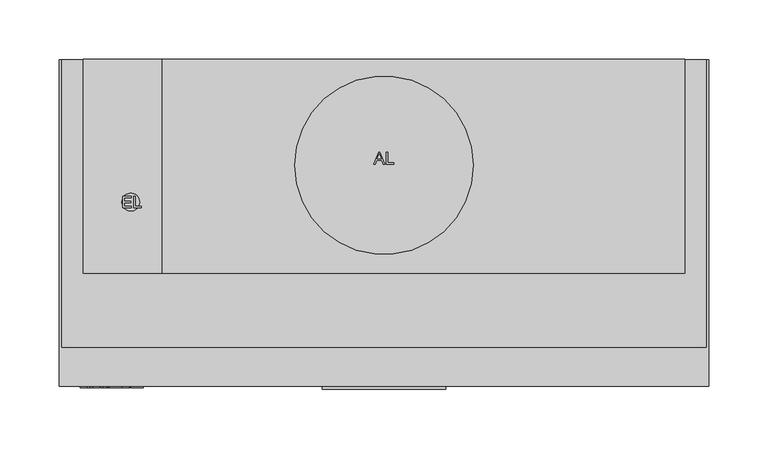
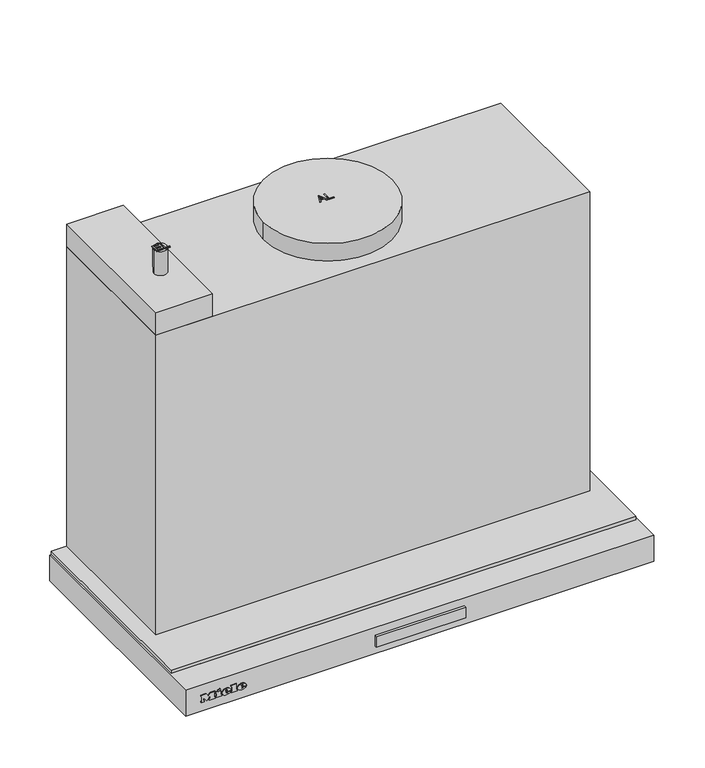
"""IFC4 building model written with IfcOpenShell, lengths in millimetres: proxy geometry, 11862880_CH_DAS2520_EDST : 28S2520S_CH_11862880_DAS2520_EDST."""

from ifc_helpers import new_model, si_unit, point, frame, frame_2d, origin, origin_with_axes, place, context, project, spatial, polyline, circle_curve, ellipse_curve, trimmed, segment, composite_curve, outline, extrude, faceted_brep, source, transform, mapped, element, save
from ifc_brep_helpers import plane_surface, cylinder_surface, revolved_surface, extruded_surface, advanced_brep


def specialty_equipment_39baf08e(model_context):
    return source(origin(), model_context, "Body", "SolidModel", [
        extrude(outline(polyline([(52.0, -275.0), (52.0, -277.3978707), (-52.0, -277.3978707), (-52.0, -275.0), (52.0, -275.0)])), frame((0.0, 0.0, -23.0389651), z_axis=(0.0, 0.0, 1.0), x_axis=(1.0, 0.0, 0.0)), (0.0, 0.0, 1.0), 13.3389155),
        advanced_brep(
        [(-208.4590019, -276.0, -18.7681017), (-208.4590019, -276.0, -17.8894017), (-202.6387019, -276.0, -17.8894017), (-212.7655019, -276.0, -17.8894017), (-210.3730019, -276.0, -20.8300017), (-202.7866019, -276.0, -18.7681017), (-205.4140019, -276.0, -18.7681017), (-207.4846019, -276.0, -19.7425017), (-208.4590019, -276.0, -16.7758017), (-208.4590019, -276.0, -15.8275017), (-206.9713019, -276.0, -15.8275017), (-206.9713019, -276.0, -16.7758017), (-208.4590019, -275.0, -18.7681017), (-207.4846019, -275.0, -19.7425017), (-205.4140019, -275.0, -18.7681017), (-202.7866019, -275.0, -18.7681017), (-210.3730019, -275.0, -20.8300017), (-212.7655019, -275.0, -17.8894017), (-202.6387019, -275.0, -17.8894017), (-208.4590019, -275.0, -17.8894017), (-208.4590019, -275.0, -16.7758017), (-206.9713019, -275.0, -16.7758017), (-206.9713019, -275.0, -15.8275017), (-208.4590019, -275.0, -15.8275017)],
        [
            (0, 1),
            (1, 2),
            (2, 3, ellipse_curve(frame((-207.7021019, -276.0, -17.8894017), z_axis=(0.0, -1.0, 0.0), x_axis=(-1.0, 0.0, 0.0)), 5.0634, 4.1847)),
            (3, 4, circle_curve(frame((-209.3985544, -276.0, -17.5936017), z_axis=(0.0, -1.0, 0.0), x_axis=(0.0, 0.0, -1.0)), 3.3799161)),
            (4, 5, circle_curve(frame((-207.8034638, -276.0, -15.2968017), z_axis=(0.0, -1.0, 0.0), x_axis=(0.0, 0.0, -1.0)), 6.1007236)),
            (5, 6),
            (6, 7, circle_curve(frame((-207.0593254, -276.0, -17.9590017), z_axis=(0.0, 1.0, 0.0), x_axis=(0.0, 0.0, -1.0)), 1.8335027)),
            (7, 0, circle_curve(frame((-207.4846019, -276.0, -18.7681017), z_axis=(0.0, 1.0, 0.0), x_axis=(0.0, 0.0, -1.0)), 0.9744)),
            (8, 9),
            (9, 10, circle_curve(frame((-207.7151519, -276.0, -15.8275017), z_axis=(0.0, 1.0, 0.0), x_axis=(0.0, 0.0, -1.0)), 0.74385)),
            (10, 11),
            (11, 8),
            (12, 13, circle_curve(frame((-207.4846019, -275.0, -18.7681017), z_axis=(0.0, -1.0, 0.0), x_axis=(0.0, 0.0, -1.0)), 0.9744)),
            (13, 14, circle_curve(frame((-207.0593254, -275.0, -17.9590017), z_axis=(0.0, -1.0, 0.0), x_axis=(0.0, 0.0, -1.0)), 1.8335027)),
            (14, 15),
            (15, 16, circle_curve(frame((-207.8034638, -275.0, -15.2968017), z_axis=(0.0, 1.0, 0.0), x_axis=(0.0, 0.0, -1.0)), 6.1007236)),
            (16, 17, circle_curve(frame((-209.3985544, -275.0, -17.5936017), z_axis=(0.0, 1.0, 0.0), x_axis=(0.0, 0.0, -1.0)), 3.3799161)),
            (17, 18, ellipse_curve(frame((-207.7021019, -275.0, -17.8894017), z_axis=(0.0, 1.0, 0.0), x_axis=(-1.0, 0.0, 0.0)), 5.0634, 4.1847)),
            (18, 19),
            (19, 12),
            (20, 21),
            (21, 22),
            (22, 23, circle_curve(frame((-207.7151519, -275.0, -15.8275017), z_axis=(0.0, -1.0, 0.0), x_axis=(0.0, 0.0, -1.0)), 0.74385)),
            (23, 20),
            (0, 12),
            (19, 1),
            (18, 2),
            (5, 15),
            (14, 6),
            (17, 3),
            (13, 7),
            (16, 4),
            (8, 20),
            (23, 9),
            (22, 10),
            (21, 11),
        ],
        [
            plane_surface(frame((-208.4590019, -276.0, -17.8894017), z_axis=(0.0, -1.0, 0.0), x_axis=(0.0, 0.0, 1.0))),
            plane_surface(frame((-208.4590019, -275.0, -17.8894017), z_axis=(0.0, 1.0, 0.0), x_axis=(0.0, 0.0, -1.0))),
            plane_surface(frame((-208.4590019, -276.0, -18.7681017), z_axis=(1.0, 0.0, 0.0), x_axis=(0.0, 1.0, 0.0))),
            plane_surface(frame((-208.4590019, -276.0, -17.8894017), z_axis=(0.0, 0.0, -1.0), x_axis=(0.0, 1.0, 0.0))),
            plane_surface(frame((-202.7866019, -276.0, -18.7681017), z_axis=(0.0, 0.0, 1.0), x_axis=(0.0, 1.0, 0.0))),
            extruded_surface(trimmed(ellipse_curve(frame((-207.7021019, -274.0, -17.8894017), z_axis=(0.0, -1.0, 0.0), x_axis=(-1.0, 0.0, 0.0)), 5.0634, 4.1847), [point((-202.6387019, -274.0, -17.8894017))], [point((-212.7655019, -274.0, -17.8894017))], True, "CARTESIAN"), (0.0, -1.0, 0.0), 1.0),
            revolved_surface(polyline([(-207.0593254, -275.0, -19.792504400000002), (-207.0593254, -276.0, -19.792504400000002)]), (-207.0593254, -275.0, -17.9590017), (0.0, 1.0, 0.0)),
            revolved_surface(polyline([(-207.4846019, -275.0, -19.7425017), (-207.4846019, -276.0, -19.7425017)]), (-207.4846019, -275.0, -18.7681017), (0.0, 1.0, 0.0)),
            cylinder_surface(frame((-209.3985544, -275.0, -17.5936017), z_axis=(0.0, -1.0, 0.0), x_axis=(0.0, 0.0, -1.0)), 3.3799161),
            cylinder_surface(frame((-207.8034638, -275.0, -15.2968017), z_axis=(0.0, -1.0, 0.0), x_axis=(0.0, 0.0, -1.0)), 6.1007236),
            plane_surface(frame((-208.4590019, -276.0, -16.7758017), z_axis=(1.0, 0.0, 0.0), x_axis=(0.0, 1.0, 0.0))),
            revolved_surface(polyline([(-207.7151519, -275.0, -16.571351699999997), (-207.7151519, -276.0, -16.571351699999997)]), (-207.7151519, -275.0, -15.8275017), (0.0, 1.0, 0.0)),
            plane_surface(frame((-206.9713019, -276.0, -15.8275017), z_axis=(-1.0, 0.0, 0.0), x_axis=(0.0, 1.0, 0.0))),
            plane_surface(frame((-206.9713019, -276.0, -16.7758017), z_axis=(0.0, 0.0, 1.0), x_axis=(0.0, 1.0, 0.0))),
        ],
        [
            (0, [[1, 2, 3, 4, 5, 6, 7, 8], [9, 10, 11, 12]]),
            (1, [[13, 14, 15, 16, 17, 18, 19, 20], [21, 22, 23, 24]]),
            (2, [[-1, 25, -20, 26]]),
            (3, [[-2, -26, -19, 27]]),
            (4, [[-6, 28, -15, 29]]),
            (5, [[-3, -27, -18, 30]]),
            (6, [[-7, -29, -14, 31]]),
            (7, [[-8, -31, -13, -25]]),
            (8, [[-4, -30, -17, 32]]),
            (9, [[-5, -32, -16, -28]]),
            (10, [[-9, 33, -24, 34]]),
            (11, [[-10, -34, -23, 35]]),
            (12, [[-11, -35, -22, 36]]),
            (13, [[-12, -36, -21, -33]]),
        ],
    ),
        advanced_brep(
        [(-226.6159019, -276.0, -18.7681017), (-226.6159019, -276.0, -17.8894017), (-220.7956019, -276.0, -17.8894017), (-230.9224019, -276.0, -17.8894017), (-228.5299019, -276.0, -20.8300017), (-220.9435019, -276.0, -18.7681017), (-223.5709019, -276.0, -18.7681017), (-225.6415019, -276.0, -19.7425017), (-226.6159019, -276.0, -16.7758017), (-226.6159019, -276.0, -15.8275017), (-225.1282019, -276.0, -15.8275017), (-225.1282019, -276.0, -16.7758017), (-226.6159019, -275.0, -18.7681017), (-225.6415019, -275.0, -19.7425017), (-223.5709019, -275.0, -18.7681017), (-220.9435019, -275.0, -18.7681017), (-228.5299019, -275.0, -20.8300017), (-230.9224019, -275.0, -17.8894017), (-220.7956019, -275.0, -17.8894017), (-226.6159019, -275.0, -17.8894017), (-226.6159019, -275.0, -16.7758017), (-225.1282019, -275.0, -16.7758017), (-225.1282019, -275.0, -15.8275017), (-226.6159019, -275.0, -15.8275017)],
        [
            (0, 1),
            (1, 2),
            (2, 3, ellipse_curve(frame((-225.8590019, -276.0, -17.8894017), z_axis=(0.0, -1.0, 0.0), x_axis=(-1.0, 0.0, 0.0)), 5.0634, 4.1847)),
            (3, 4, circle_curve(frame((-227.5554544, -276.0, -17.5936017), z_axis=(0.0, -1.0, 0.0), x_axis=(0.0, 0.0, -1.0)), 3.3799161)),
            (4, 5, circle_curve(frame((-225.9603638, -276.0, -15.2968017), z_axis=(0.0, -1.0, 0.0), x_axis=(0.0, 0.0, -1.0)), 6.1007236)),
            (5, 6),
            (6, 7, circle_curve(frame((-225.2162254, -276.0, -17.9590017), z_axis=(0.0, 1.0, 0.0), x_axis=(0.0, 0.0, -1.0)), 1.8335027)),
            (7, 0, circle_curve(frame((-225.6415019, -276.0, -18.7681017), z_axis=(0.0, 1.0, 0.0), x_axis=(0.0, 0.0, -1.0)), 0.9744)),
            (8, 9),
            (9, 10, circle_curve(frame((-225.8720519, -276.0, -15.8275017), z_axis=(0.0, 1.0, 0.0), x_axis=(0.0, 0.0, -1.0)), 0.74385)),
            (10, 11),
            (11, 8),
            (12, 13, circle_curve(frame((-225.6415019, -275.0, -18.7681017), z_axis=(0.0, -1.0, 0.0), x_axis=(0.0, 0.0, -1.0)), 0.9744)),
            (13, 14, circle_curve(frame((-225.2162254, -275.0, -17.9590017), z_axis=(0.0, -1.0, 0.0), x_axis=(0.0, 0.0, -1.0)), 1.8335027)),
            (14, 15),
            (15, 16, circle_curve(frame((-225.9603638, -275.0, -15.2968017), z_axis=(0.0, 1.0, 0.0), x_axis=(0.0, 0.0, -1.0)), 6.1007236)),
            (16, 17, circle_curve(frame((-227.5554544, -275.0, -17.5936017), z_axis=(0.0, 1.0, 0.0), x_axis=(0.0, 0.0, -1.0)), 3.3799161)),
            (17, 18, ellipse_curve(frame((-225.8590019, -275.0, -17.8894017), z_axis=(0.0, 1.0, 0.0), x_axis=(-1.0, 0.0, 0.0)), 5.0634, 4.1847)),
            (18, 19),
            (19, 12),
            (20, 21),
            (21, 22),
            (22, 23, circle_curve(frame((-225.8720519, -275.0, -15.8275017), z_axis=(0.0, -1.0, 0.0), x_axis=(0.0, 0.0, -1.0)), 0.74385)),
            (23, 20),
            (0, 12),
            (19, 1),
            (18, 2),
            (5, 15),
            (14, 6),
            (17, 3),
            (13, 7),
            (16, 4),
            (8, 20),
            (23, 9),
            (22, 10),
            (21, 11),
        ],
        [
            plane_surface(frame((-226.6159019, -276.0, -17.8894017), z_axis=(0.0, -1.0, 0.0), x_axis=(0.0, 0.0, 1.0))),
            plane_surface(frame((-226.6159019, -275.0, -17.8894017), z_axis=(0.0, 1.0, 0.0), x_axis=(0.0, 0.0, -1.0))),
            plane_surface(frame((-226.6159019, -276.0, -18.7681017), z_axis=(1.0, 0.0, 0.0), x_axis=(0.0, 1.0, 0.0))),
            plane_surface(frame((-226.6159019, -276.0, -17.8894017), z_axis=(0.0, 0.0, -1.0), x_axis=(0.0, 1.0, 0.0))),
            plane_surface(frame((-220.9435019, -276.0, -18.7681017), z_axis=(0.0, 0.0, 1.0), x_axis=(0.0, 1.0, 0.0))),
            extruded_surface(trimmed(ellipse_curve(frame((-225.8590019, -274.0, -17.8894017), z_axis=(0.0, -1.0, 0.0), x_axis=(-1.0, 0.0, 0.0)), 5.0634, 4.1847), [point((-220.7956019, -274.0, -17.8894017))], [point((-230.9224019, -274.0, -17.8894017))], True, "CARTESIAN"), (0.0, -1.0, 0.0), 1.0),
            revolved_surface(polyline([(-225.2162254, -275.0, -19.792504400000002), (-225.2162254, -276.0, -19.792504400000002)]), (-225.2162254, -275.0, -17.9590017), (0.0, 1.0, 0.0)),
            revolved_surface(polyline([(-225.6415019, -275.0, -19.7425017), (-225.6415019, -276.0, -19.7425017)]), (-225.6415019, -275.0, -18.7681017), (0.0, 1.0, 0.0)),
            cylinder_surface(frame((-227.5554544, -275.0, -17.5936017), z_axis=(0.0, -1.0, 0.0), x_axis=(0.0, 0.0, -1.0)), 3.3799161),
            cylinder_surface(frame((-225.9603638, -275.0, -15.2968017), z_axis=(0.0, -1.0, 0.0), x_axis=(0.0, 0.0, -1.0)), 6.1007236),
            plane_surface(frame((-226.6159019, -276.0, -16.7758017), z_axis=(1.0, 0.0, 0.0), x_axis=(0.0, 1.0, 0.0))),
            revolved_surface(polyline([(-225.8720519, -275.0, -16.571351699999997), (-225.8720519, -276.0, -16.571351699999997)]), (-225.8720519, -275.0, -15.8275017), (0.0, 1.0, 0.0)),
            plane_surface(frame((-225.1282019, -276.0, -15.8275017), z_axis=(-1.0, 0.0, 0.0), x_axis=(0.0, 1.0, 0.0))),
            plane_surface(frame((-225.1282019, -276.0, -16.7758017), z_axis=(0.0, 0.0, 1.0), x_axis=(0.0, 1.0, 0.0))),
        ],
        [
            (0, [[1, 2, 3, 4, 5, 6, 7, 8], [9, 10, 11, 12]]),
            (1, [[13, 14, 15, 16, 17, 18, 19, 20], [21, 22, 23, 24]]),
            (2, [[-1, 25, -20, 26]]),
            (3, [[-2, -26, -19, 27]]),
            (4, [[-6, 28, -15, 29]]),
            (5, [[-3, -27, -18, 30]]),
            (6, [[-7, -29, -14, 31]]),
            (7, [[-8, -31, -13, -25]]),
            (8, [[-4, -30, -17, 32]]),
            (9, [[-5, -32, -16, -28]]),
            (10, [[-9, 33, -24, 34]]),
            (11, [[-10, -34, -23, 35]]),
            (12, [[-11, -35, -22, 36]]),
            (13, [[-12, -36, -21, -33]]),
        ],
    ),
        extrude(outline(polyline([(-12.6433017, -236.1250019), (-14.0527017, -235.4638019), (-12.6781017, -232.5145019), (-11.2687017, -233.1670019), (-12.6433017, -236.1250019)])), frame((0.0, -276.0, 0.0), z_axis=(0.0, 1.0, 0.0), x_axis=(0.0, 0.0, 1.0)), (0.0, 0.0, 1.0), 1.0),
        extrude(outline(polyline([(-14.2441017, -238.2739019), (-15.8014017, -238.2739019), (-15.8014017, -237.2386019), (-19.3684017, -237.2386019), (-19.3684017, -238.2739019), (-20.8300017, -238.2739019), (-20.8300017, -231.4096019), (-19.3684017, -231.4096019), (-19.3684017, -232.4188019), (-14.2441017, -232.4188019), (-14.2441017, -238.2739019)])), frame((0.0, -276.0, 0.0), z_axis=(0.0, 1.0, 0.0), x_axis=(0.0, 0.0, 1.0)), (0.0, 0.0, 1.0), 1.0),
        extrude(outline(polyline([(-13.5481017, -220.3084019), (-13.5481017, -219.2644019), (-19.3684017, -219.2644019), (-19.3684017, -220.3084019), (-20.8300017, -220.3084019), (-20.8300017, -213.2527019), (-19.3684017, -213.2527019), (-19.3684017, -214.3228019), (-12.1300017, -214.3228019), (-12.1300017, -220.3084019), (-13.5481017, -220.3084019)])), frame((0.0, -276.0, 0.0), z_axis=(0.0, 1.0, 0.0), x_axis=(0.0, 0.0, 1.0)), (0.0, 0.0, 1.0), 1.0),
        extrude(outline(polyline([(-13.5481017, -255.6130019), (-13.5481017, -254.5603019), (-19.3684017, -254.5603019), (-19.3684017, -255.6130019), (-20.8300017, -255.6130019), (-20.8300017, -251.7850019), (-19.3684017, -251.7850019), (-19.3684017, -252.8290019), (-15.6719769, -252.8290019), (-20.8300017, -248.9401019), (-15.5772794, -245.0338019), (-19.3684017, -245.0338019), (-19.3684017, -246.1039019), (-20.8300017, -246.1039019), (-20.8300017, -239.1613019), (-19.3684017, -239.1613019), (-19.3684017, -240.2662019), (-13.5481017, -240.2662019), (-13.5481017, -239.1613019), (-12.1300017, -239.1613019), (-12.1300017, -244.4596019), (-15.3925017, -247.0000019), (-12.1300017, -249.5491019), (-12.1300017, -255.6130019), (-13.5481017, -255.6130019)])), frame((0.0, -276.0, 0.0), z_axis=(0.0, 1.0, 0.0), x_axis=(0.0, 0.0, 1.0)), (0.0, 0.0, 1.0), 1.0),
        extrude(outline(polyline([(253.0, -180.0), (-253.0, -180.0), (-253.0, 0.0), (253.0, 0.0), (253.0, -180.0)])), frame((0.0, 0.0, 4.0), z_axis=(0.0, 0.0, 1.0), x_axis=(1.0, 0.0, 0.0)), (0.0, 0.0, 1.0), 369.0),
        extrude(outline(composite_curve([segment(trimmed(circle_curve(frame_2d((0.0, -89.0)), 75.0), [point((-75.0, -89.0))], [point((75.0, -89.0))], False, "CARTESIAN"), True, "CONTINUOUS"), segment(trimmed(circle_curve(frame_2d((0.0, -89.0)), 75.0), [point((75.0, -89.0))], [point((-75.0, -89.0))], False, "CARTESIAN"), True, "CONTINUOUS")], self_intersect=False)), frame((0.0, 0.0, 373.0), z_axis=(0.0, 0.0, 1.0), x_axis=(1.0, 0.0, 0.0)), (0.0, 0.0, 1.0), 22.0),
        extrude(outline(polyline([(-253.0, -180.0), (-253.0, 0.0), (-187.0, 0.0), (-187.0, -180.0), (-253.0, -180.0)])), frame((0.0, 0.0, 373.0), z_axis=(0.0, 0.0, 1.0), x_axis=(1.0, 0.0, 0.0)), (0.0, 0.0, 1.0), 28.0),
        extrude(outline(polyline([(-8.547125, -87.975609), (-4.5372113, -77.929978), (-3.4679009, -77.929978), (0.5420128, -87.975609), (-0.7848149, -87.975609), (-1.9350593, -84.8363493), (-6.0725055, -84.8363493), (-7.2202973, -87.975609), (-8.547125, -87.975609)]), holes=[polyline([(-5.6114267, -83.5806455), (-2.3936855, -83.5806455), (-3.2986752, -81.110931), (-4.0025561, -79.1856819), (-4.6279555, -80.8951069), (-5.6114267, -83.5806455)])]), frame((0.0, 0.0, 395.0), z_axis=(0.0, 0.0, 1.0), x_axis=(1.0, 0.0, 0.0)), (0.0, 0.0, 1.0), 1.0),
        extrude(outline(polyline([(1.8835558, -87.975609), (1.8835558, -77.929978), (3.1392597, -77.929978), (3.1392597, -86.7199052), (8.1620752, -86.7199052), (8.1620752, -87.975609), (1.8835558, -87.975609)])), frame((0.0, 0.0, 395.0), z_axis=(0.0, 0.0, 1.0), x_axis=(1.0, 0.0, 0.0)), (0.0, 0.0, 1.0), 1.0),
        extrude(outline(polyline([(271.0, 0.0), (271.0, -242.0), (-271.0, -242.0), (-271.0, 0.0), (271.0, 0.0)])), origin_with_axes(), (0.0, 0.0, 1.0), 4.0),
        extrude(outline(polyline([(120.0, -19.25), (120.0, -31.75), (-120.0, -31.75), (-120.0, -19.25), (120.0, -19.25)])), frame((0.0, 0.0, -23.0), z_axis=(0.0, 0.0, 1.0), x_axis=(1.0, 0.0, 0.0)), (0.0, 0.0, 1.0), 1.785426),
        extrude(outline(polyline([(156.0813184, -268.0), (156.0813184, -246.0), (224.0, -246.0), (224.0, -268.0), (156.0813184, -268.0)])), frame((0.0, 0.0, -33.3019181), z_axis=(0.0, 0.0, 1.0), x_axis=(1.0, 0.0, 0.0)), (0.0, 0.0, 1.0), 1.3019181),
        extrude(outline(polyline([(-224.0, -268.0), (-224.0, -246.0), (-156.0, -246.0), (-156.0, -268.0), (-224.0, -268.0)])), frame((0.0, 0.0, -33.3019181), z_axis=(0.0, 0.0, 1.0), x_axis=(1.0, 0.0, 0.0)), (0.0, 0.0, 1.0), 1.3019181),
        extrude(outline(composite_curve([segment(trimmed(circle_curve(frame_2d((-213.0, -120.0)), 7.5), [point((-205.5, -120.0))], [point((-220.5, -120.0))], False, "CARTESIAN"), True, "CONTINUOUS"), segment(trimmed(circle_curve(frame_2d((-213.0, -120.0)), 7.5), [point((-220.5, -120.0))], [point((-205.5, -120.0))], False, "CARTESIAN"), True, "CONTINUOUS")], self_intersect=False)), frame((0.0, 0.0, 401.0), z_axis=(0.0, 0.0, 1.0), x_axis=(1.0, 0.0, 0.0)), (0.0, 0.0, 1.0), 30.0),
        extrude(outline(polyline([(-210.640443, -124.9184735), (-210.640443, -114.8728425), (-209.3847391, -114.8728425), (-209.3847391, -123.6627696), (-204.3619236, -123.6627696), (-204.3619236, -124.9184735), (-210.640443, -124.9184735)])), frame((0.0, 0.0, 431.0), z_axis=(0.0, 0.0, 1.0), x_axis=(1.0, 0.0, 0.0)), (0.0, 0.0, 1.0), 1.0),
        extrude(outline(polyline([(-219.9012591, -124.9184735), (-219.9012591, -114.8728425), (-212.6809618, -114.8728425), (-212.6809618, -116.1285464), (-218.6455552, -116.1285464), (-218.6455552, -119.1108431), (-212.9948878, -119.1108431), (-212.9948878, -120.366547), (-218.6455552, -120.366547), (-218.6455552, -123.6627696), (-212.5239988, -123.6627696), (-212.5239988, -124.9184735), (-219.9012591, -124.9184735)])), frame((0.0, 0.0, 431.0), z_axis=(0.0, 0.0, 1.0), x_axis=(1.0, 0.0, 0.0)), (0.0, 0.0, 1.0), 1.0),
        extrude(outline(polyline([(-273.0, 0.0), (-238.0, 0.0), (-238.0, -242.0), (238.0, -242.0), (238.0, 0.0), (273.0, 0.0), (273.0, -275.0), (-273.0, -275.0), (-273.0, 0.0)])), frame((0.0, 0.0, -32.0), z_axis=(0.0, 0.0, 1.0), x_axis=(1.0, 0.0, 0.0)), (0.0, 0.0, 1.0), 32.0),
        faceted_brep([(-126.0, -39.0, -24.0), (-126.0, -39.0, 0.0), (126.0, -39.0, 0.0), (126.0, -39.0, -24.0), (-126.0, -12.0, -24.0), (-126.0, -12.0, 0.0), (126.0, -12.0, -24.0), (126.0, -12.0, 0.0), (-238.0, -242.0, 0.0), (-238.0, 0.0, 0.0), (-238.0, 0.0, -24.0), (-238.0, -52.0, -24.0), (-238.0, -52.0, -25.0), (-238.0, -242.0, -25.0), (238.0, -52.0, -25.0), (238.0, -242.0, -25.0), (238.0, -52.0, -24.0), (238.0, 0.0, -24.0), (238.0, 0.0, 0.0), (238.0, -242.0, 0.0)], [[[0, 1, 2, 3]], [[4, 5, 1, 0]], [[6, 7, 5, 4]], [[8, 9, 10, 11, 12, 13]], [[13, 12, 14, 15]], [[16, 11, 10, 17], [6, 4, 0, 3]], [[11, 16, 14, 12]], [[18, 9, 8, 19], [5, 7, 2, 1]], [[9, 18, 17, 10]], [[19, 8, 13, 15]], [[18, 19, 15, 14, 16, 17]], [[7, 6, 3, 2]]]),
        extrude(outline(polyline([(126.0, -12.0), (126.0, -39.0), (-126.0, -39.0), (-126.0, -12.0), (126.0, -12.0)]), holes=[polyline([(120.0, -19.25), (-120.0, -19.25), (-120.0, -31.75), (120.0, -31.75), (120.0, -19.25)])]), frame((0.0, 0.0, -21.214574), z_axis=(0.0, 0.0, 1.0), x_axis=(1.0, 0.0, 0.0)), (0.0, 0.0, 1.0), 21.214574),
    ])


if __name__ == "__main__":
    model = new_model("IFC4")
    model_context = context("Model", 3, world=origin())
    ifc_project = project(units=[si_unit("LENGTHUNIT", "METRE", prefix="MILLI")], contexts=[model_context])
    site = spatial("IfcSite", under=ifc_project)
    building = spatial("IfcBuilding", under=site)
    placement = place(None, origin())
    specialty_equipment_shape = specialty_equipment_39baf08e(model_context)
    element("IfcBuildingElementProxy", 1, Name="11862880_CH_DAS2520_EDST : 28S2520S_CH_11862880_DAS2520_EDST", ObjectType="11862880_CH_DAS2520_EDST : 28S2520S_CH_11862880_DAS2520_EDST", at=placement, inside=building, context=model_context, shape_type="MappedRepresentation", body=[
        mapped(specialty_equipment_shape, transform((0.0, 0.0, 0.0), x_axis=(1.0, 0.0, 0.0), y_axis=(0.0, 1.0, 0.0), z_axis=(0.0, 0.0, 1.0))),
    ])
    save(model, "model.ifc")
